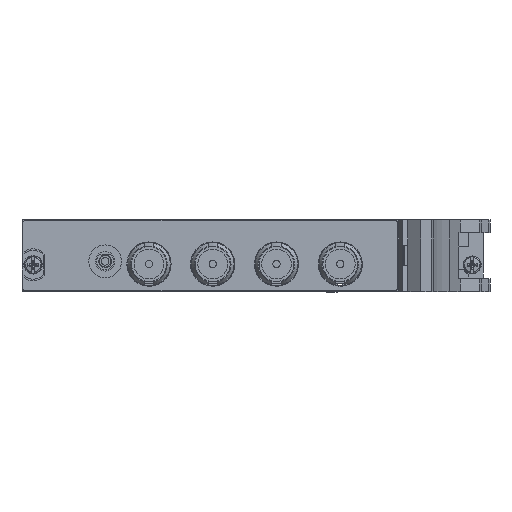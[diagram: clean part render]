
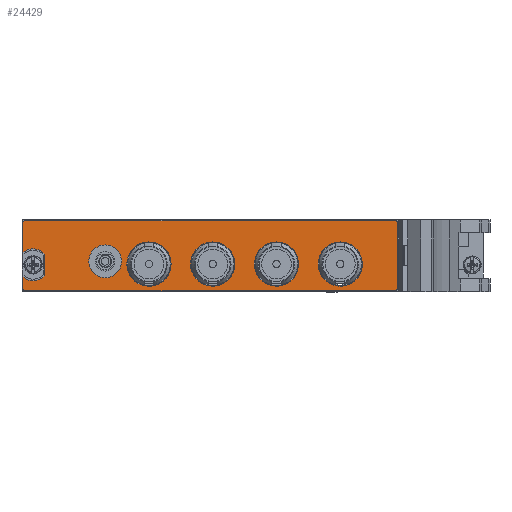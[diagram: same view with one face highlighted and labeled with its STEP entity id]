
A CAD part, left-side view. The second image highlights one B-rep face of the part: STEP entity #24429.
In plain terms, the highlighted planar face has unit normal (-1, 0, 0).
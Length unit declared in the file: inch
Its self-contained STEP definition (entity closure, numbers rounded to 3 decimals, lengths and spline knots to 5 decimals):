
#4986=CARTESIAN_POINT('',(-0.215,0.53465,0.665));
#4987=DIRECTION('',(-1.,0.,0.));
#4988=DIRECTION('',(0.,0.,1.));
#4989=AXIS2_PLACEMENT_3D('',#4986,#4987,#4988);
#4991=DIRECTION('',(0.,1.,0.));
#4992=VECTOR('',#4991,4.07);
#4993=CARTESIAN_POINT('',(-0.215,-3.53535,0.685));
#4994=LINE('',#4993,#4992);
#4995=CARTESIAN_POINT('',(-0.215,-3.53535,0.665));
#4996=DIRECTION('',(-1.,0.,0.));
#4997=DIRECTION('',(0.,-1.,0.));
#4998=AXIS2_PLACEMENT_3D('',#4995,#4996,#4997);
#5000=DIRECTION('',(0.,0.,1.));
#5001=VECTOR('',#5000,0.728);
#5002=CARTESIAN_POINT('',(-0.215,-3.55535,-0.063));
#5003=LINE('',#5002,#5001);
#5004=CARTESIAN_POINT('',(-0.215,-3.53535,-0.063));
#5005=DIRECTION('',(-1.,0.,0.));
#5006=DIRECTION('',(0.,0.,-1.));
#5007=AXIS2_PLACEMENT_3D('',#5004,#5005,#5006);
#5009=DIRECTION('',(0.,-1.,0.));
#5010=VECTOR('',#5009,4.07);
#5011=CARTESIAN_POINT('',(-0.215,0.53465,-0.083));
#5012=LINE('',#5011,#5010);
#5013=CARTESIAN_POINT('',(-0.215,0.53465,-0.063));
#5014=DIRECTION('',(-1.,0.,0.));
#5015=DIRECTION('',(0.,1.,0.));
#5016=AXIS2_PLACEMENT_3D('',#5013,#5014,#5015);
#5018=DIRECTION('',(0.,0.,-1.));
#5019=VECTOR('',#5018,0.12953);
#5020=CARTESIAN_POINT('',(-0.215,0.55465,0.06653));
#5021=LINE('',#5020,#5019);
#5022=CARTESIAN_POINT('',(-0.215,0.44265,0.201));
#5023=DIRECTION('',(1.,0.,0.));
#5024=DIRECTION('',(0.,-0.737,-0.676));
#5025=AXIS2_PLACEMENT_3D('',#5022,#5023,#5024);
#5027=DIRECTION('',(0.,0.,-1.));
#5028=VECTOR('',#5027,0.23651);
#5029=CARTESIAN_POINT('',(-0.215,0.31365,0.31925));
#5030=LINE('',#5029,#5028);
#5031=CARTESIAN_POINT('',(-0.215,0.44265,0.201));
#5032=DIRECTION('',(1.,0.,0.));
#5033=DIRECTION('',(0.,0.64,0.768));
#5034=AXIS2_PLACEMENT_3D('',#5031,#5032,#5033);
#5036=DIRECTION('',(0.,0.,-1.));
#5037=VECTOR('',#5036,0.32953);
#5038=CARTESIAN_POINT('',(-0.215,0.55465,0.665));
#5039=LINE('',#5038,#5037);
#5040=CARTESIAN_POINT('',(-0.215,-0.349,0.239));
#5041=DIRECTION('',(-1.,0.,0.));
#5042=DIRECTION('',(0.,0.,1.));
#5043=AXIS2_PLACEMENT_3D('',#5040,#5041,#5042);
#5045=CARTESIAN_POINT('',(-0.215,-0.349,0.239));
#5046=DIRECTION('',(-1.,0.,0.));
#5047=DIRECTION('',(0.,0.,-1.));
#5048=AXIS2_PLACEMENT_3D('',#5045,#5046,#5047);
#5050=CARTESIAN_POINT('',(-0.215,-0.829,0.2087));
#5051=DIRECTION('',(-1.,0.,0.));
#5052=DIRECTION('',(0.,0.,1.));
#5053=AXIS2_PLACEMENT_3D('',#5050,#5051,#5052);
#5055=CARTESIAN_POINT('',(-0.215,-0.829,0.2087));
#5056=DIRECTION('',(-1.,0.,0.));
#5057=DIRECTION('',(0.,0.,-1.));
#5058=AXIS2_PLACEMENT_3D('',#5055,#5056,#5057);
#5060=CARTESIAN_POINT('',(-0.215,-1.529,0.2087));
#5061=DIRECTION('',(-1.,0.,0.));
#5062=DIRECTION('',(0.,0.,1.));
#5063=AXIS2_PLACEMENT_3D('',#5060,#5061,#5062);
#5065=CARTESIAN_POINT('',(-0.215,-1.529,0.2087));
#5066=DIRECTION('',(-1.,0.,0.));
#5067=DIRECTION('',(0.,0.,-1.));
#5068=AXIS2_PLACEMENT_3D('',#5065,#5066,#5067);
#5070=CARTESIAN_POINT('',(-0.215,-2.229,0.2087));
#5071=DIRECTION('',(-1.,0.,0.));
#5072=DIRECTION('',(0.,0.,1.));
#5073=AXIS2_PLACEMENT_3D('',#5070,#5071,#5072);
#5075=CARTESIAN_POINT('',(-0.215,-2.229,0.2087));
#5076=DIRECTION('',(-1.,0.,0.));
#5077=DIRECTION('',(0.,0.,-1.));
#5078=AXIS2_PLACEMENT_3D('',#5075,#5076,#5077);
#5080=CARTESIAN_POINT('',(-0.215,-2.929,0.2087));
#5081=DIRECTION('',(-1.,0.,0.));
#5082=DIRECTION('',(0.,0.,1.));
#5083=AXIS2_PLACEMENT_3D('',#5080,#5081,#5082);
#5085=CARTESIAN_POINT('',(-0.215,-2.929,0.2087));
#5086=DIRECTION('',(-1.,0.,0.));
#5087=DIRECTION('',(0.,0.,-1.));
#5088=AXIS2_PLACEMENT_3D('',#5085,#5086,#5087);
#15239=CARTESIAN_POINT('',(-0.215,0.53465,0.685));
#15240=CARTESIAN_POINT('',(-0.215,0.55465,0.665));
#15241=VERTEX_POINT('',#15239);
#15242=VERTEX_POINT('',#15240);
#15243=CARTESIAN_POINT('',(-0.215,0.55465,0.33547));
#15244=VERTEX_POINT('',#15243);
#15245=CARTESIAN_POINT('',(-0.215,0.31365,0.31925));
#15246=VERTEX_POINT('',#15245);
#15247=CARTESIAN_POINT('',(-0.215,0.31365,0.08275));
#15248=VERTEX_POINT('',#15247);
#15249=CARTESIAN_POINT('',(-0.215,0.55465,0.06653));
#15250=VERTEX_POINT('',#15249);
#15251=CARTESIAN_POINT('',(-0.215,0.55465,-0.063));
#15252=VERTEX_POINT('',#15251);
#15253=CARTESIAN_POINT('',(-0.215,0.53465,-0.083));
#15254=VERTEX_POINT('',#15253);
#15255=CARTESIAN_POINT('',(-0.215,-3.53535,-0.083));
#15256=VERTEX_POINT('',#15255);
#15257=CARTESIAN_POINT('',(-0.215,-3.55535,-0.063));
#15258=VERTEX_POINT('',#15257);
#15259=CARTESIAN_POINT('',(-0.215,-3.55535,0.665));
#15260=VERTEX_POINT('',#15259);
#15261=CARTESIAN_POINT('',(-0.215,-3.53535,0.685));
#15262=VERTEX_POINT('',#15261);
#15263=CARTESIAN_POINT('',(-0.215,-0.349,0.419));
#15264=CARTESIAN_POINT('',(-0.215,-0.349,0.059));
#15265=VERTEX_POINT('',#15263);
#15266=VERTEX_POINT('',#15264);
#15267=CARTESIAN_POINT('',(-0.215,-0.829,0.4512));
#15268=CARTESIAN_POINT('',(-0.215,-0.829,-0.0338));
#15269=VERTEX_POINT('',#15267);
#15270=VERTEX_POINT('',#15268);
#15271=CARTESIAN_POINT('',(-0.215,-1.529,0.4512));
#15272=CARTESIAN_POINT('',(-0.215,-1.529,-0.0338));
#15273=VERTEX_POINT('',#15271);
#15274=VERTEX_POINT('',#15272);
#15275=CARTESIAN_POINT('',(-0.215,-2.229,0.4512));
#15276=CARTESIAN_POINT('',(-0.215,-2.229,-0.0338));
#15277=VERTEX_POINT('',#15275);
#15278=VERTEX_POINT('',#15276);
#15279=CARTESIAN_POINT('',(-0.215,-2.929,0.4512));
#15280=CARTESIAN_POINT('',(-0.215,-2.929,-0.0338));
#15281=VERTEX_POINT('',#15279);
#15282=VERTEX_POINT('',#15280);
#24380=CARTESIAN_POINT('',(-0.215,0.44265,0.201));
#24381=DIRECTION('',(-1.,0.,0.));
#24382=DIRECTION('',(0.,0.,1.));
#24383=AXIS2_PLACEMENT_3D('',#24380,#24381,#24382);
#24384=PLANE('',#24383);
#24385=ORIENTED_EDGE('',*,*,#24220,.F.);
#24386=ORIENTED_EDGE('',*,*,#24235,.F.);
#24387=ORIENTED_EDGE('',*,*,#24249,.F.);
#24388=ORIENTED_EDGE('',*,*,#24263,.F.);
#24389=ORIENTED_EDGE('',*,*,#24277,.F.);
#24390=ORIENTED_EDGE('',*,*,#24291,.F.);
#24391=ORIENTED_EDGE('',*,*,#24305,.F.);
#24392=ORIENTED_EDGE('',*,*,#24319,.F.);
#24393=ORIENTED_EDGE('',*,*,#24333,.F.);
#24394=ORIENTED_EDGE('',*,*,#24347,.F.);
#24395=ORIENTED_EDGE('',*,*,#24361,.F.);
#24396=ORIENTED_EDGE('',*,*,#24374,.F.);
#24397=EDGE_LOOP('',(#24385,#24386,#24387,#24388,#24389,#24390,#24391,#24392,
#24393,#24394,#24395,#24396));
#24398=FACE_OUTER_BOUND('',#24397,.F.);
#24400=ORIENTED_EDGE('',*,*,#24399,.T.);
#24402=ORIENTED_EDGE('',*,*,#24401,.T.);
#24403=EDGE_LOOP('',(#24400,#24402));
#24404=FACE_BOUND('',#24403,.F.);
#24406=ORIENTED_EDGE('',*,*,#24405,.T.);
#24408=ORIENTED_EDGE('',*,*,#24407,.T.);
#24409=EDGE_LOOP('',(#24406,#24408));
#24410=FACE_BOUND('',#24409,.F.);
#24412=ORIENTED_EDGE('',*,*,#24411,.T.);
#24414=ORIENTED_EDGE('',*,*,#24413,.T.);
#24415=EDGE_LOOP('',(#24412,#24414));
#24416=FACE_BOUND('',#24415,.F.);
#24418=ORIENTED_EDGE('',*,*,#24417,.T.);
#24420=ORIENTED_EDGE('',*,*,#24419,.T.);
#24421=EDGE_LOOP('',(#24418,#24420));
#24422=FACE_BOUND('',#24421,.F.);
#24424=ORIENTED_EDGE('',*,*,#24423,.T.);
#24426=ORIENTED_EDGE('',*,*,#24425,.T.);
#24427=EDGE_LOOP('',(#24424,#24426));
#24428=FACE_BOUND('',#24427,.F.);
#24429=ADVANCED_FACE('',(#24398,#24404,#24410,#24416,#24422,#24428),#24384,.T.);
#4990=CIRCLE('',#4989,0.02);
#4999=CIRCLE('',#4998,0.02);
#5008=CIRCLE('',#5007,0.02);
#5017=CIRCLE('',#5016,0.02);
#5026=CIRCLE('',#5025,0.175);
#5035=CIRCLE('',#5034,0.175);
#5044=CIRCLE('',#5043,0.18);
#5049=CIRCLE('',#5048,0.18);
#5054=CIRCLE('',#5053,0.2425);
#5059=CIRCLE('',#5058,0.2425);
#5064=CIRCLE('',#5063,0.2425);
#5069=CIRCLE('',#5068,0.2425);
#5074=CIRCLE('',#5073,0.2425);
#5079=CIRCLE('',#5078,0.2425);
#5084=CIRCLE('',#5083,0.2425);
#5089=CIRCLE('',#5088,0.2425);
#24220=EDGE_CURVE('',#15241,#15242,#4990,.T.);
#24235=EDGE_CURVE('',#15262,#15241,#4994,.T.);
#24249=EDGE_CURVE('',#15260,#15262,#4999,.T.);
#24263=EDGE_CURVE('',#15258,#15260,#5003,.T.);
#24277=EDGE_CURVE('',#15256,#15258,#5008,.T.);
#24291=EDGE_CURVE('',#15254,#15256,#5012,.T.);
#24305=EDGE_CURVE('',#15252,#15254,#5017,.T.);
#24319=EDGE_CURVE('',#15250,#15252,#5021,.T.);
#24333=EDGE_CURVE('',#15248,#15250,#5026,.T.);
#24347=EDGE_CURVE('',#15246,#15248,#5030,.T.);
#24361=EDGE_CURVE('',#15244,#15246,#5035,.T.);
#24374=EDGE_CURVE('',#15242,#15244,#5039,.T.);
#24399=EDGE_CURVE('',#15265,#15266,#5044,.T.);
#24401=EDGE_CURVE('',#15266,#15265,#5049,.T.);
#24405=EDGE_CURVE('',#15269,#15270,#5054,.T.);
#24407=EDGE_CURVE('',#15270,#15269,#5059,.T.);
#24411=EDGE_CURVE('',#15273,#15274,#5064,.T.);
#24413=EDGE_CURVE('',#15274,#15273,#5069,.T.);
#24417=EDGE_CURVE('',#15277,#15278,#5074,.T.);
#24419=EDGE_CURVE('',#15278,#15277,#5079,.T.);
#24423=EDGE_CURVE('',#15281,#15282,#5084,.T.);
#24425=EDGE_CURVE('',#15282,#15281,#5089,.T.);
